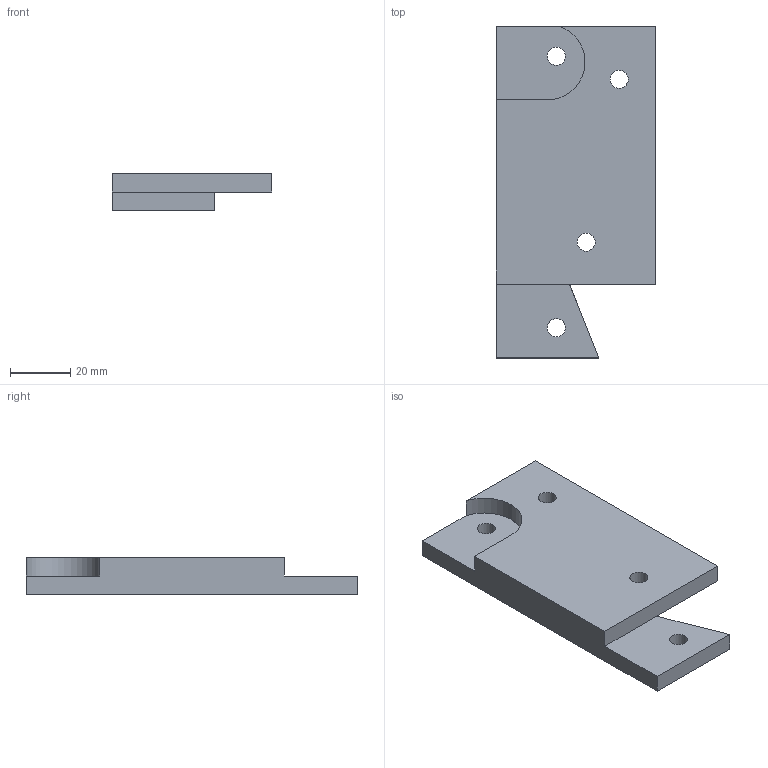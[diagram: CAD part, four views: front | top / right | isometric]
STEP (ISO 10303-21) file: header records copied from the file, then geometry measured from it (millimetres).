
FILE_DESCRIPTION(/* description */ (''),/* implementation_level */ '2;1');
FILE_NAME(/* name */ 'D:\Inventor\Travail\Machines\Nouveau dossier (2)\adapt2.stp',/* time_stamp */ '2016-02-02T16:20:57+01:00',/* author */ ('BreysseC'),/* organization */ (''),/* preprocessor_version */ 'ST-DEVELOPER v15.6',/* originating_system */ 'Autodesk Inventor 2015',/* authorisation */ '');
FILE_SCHEMA (('CONFIG_CONTROL_DESIGN'));
Length unit declared in the file: millimetre
Products named in the file (1): adapt2
Bounding box: 53 x 110 x 12 mm (x, y, z)
Volume: 39233.6 mm3; surface area: 14173.5 mm2
Topology: 1 solids, 1 shells, 19 faces, 52 edges, 35 vertices
Faces by surface type: plane 13, cylinder 6
Full cylindrical faces by diameter (mm): 6 x4
Entity records: 608 total; most frequent: CARTESIAN_POINT 99, DIRECTION 98, ORIENTED_EDGE 92, EDGE_CURVE 46, LINE 34, VECTOR 34, VERTEX_POINT 33, AXIS2_PLACEMENT_3D 32
